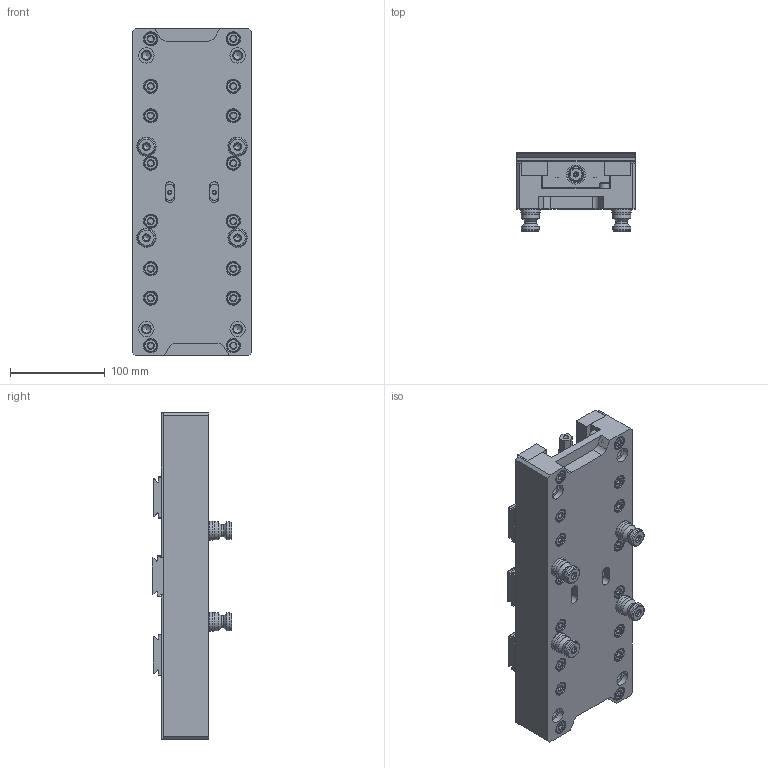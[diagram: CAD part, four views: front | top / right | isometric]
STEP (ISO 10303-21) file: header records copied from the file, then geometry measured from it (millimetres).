
FILE_DESCRIPTION (( 'STEP AP214' ), '1' );
FILE_NAME ('VA513_SPEC.DWG_WEBSITE.step', '2025-08-11T11:52:16', ( '' ), ( '' ), 'SwSTEP 2.0', 'SolidWorks 2025', '' );
FILE_SCHEMA (( 'AUTOMOTIVE_DESIGN' ));
Length unit declared in the file: inch
Products named in the file (21): VA513_SPEC.DWG_WEBSITE; M8X35MM.SHCS_513_SPEC.DWG_WEBSITE_M8X35MM.SHCS; M8X025.SHCS_513_SPEC.DWG_WEBSITE_M8X025.SHCS; VA56-10_513_SPEC.DWG_WEBSITE_VA56-10; M5X20MM.SHCS_513_SPEC.DWG_WEBSITE_M5X20MM.SHCS; PS20F_513_SPEC.DWG_WEBSITE; VA56-2R_513_SPEC.DWG_WEBSITE_VA56-2R; M12X35MM.LHSCS.10.9.SPEC.DWG_WEBSITE_M12X35MM.LHSCS; VA56-8_513_SPEC.DWG_WEBSITE_VA56-8; M6X6MM.SHCS_513_SPEC.DWG_WEBSITE_M6X6MM.SHCS; VA56-6_513_SPEC.DWG_WEBSITE_VA56-6; M10X25.FPSS_513_SPEC.DWG_WEBSITE_91390A162; VA513-1_513_SPEC.DWG_WEBSITE_VA513-1; VA56-3B_513_SPEC.DWG_WEBSITE_VA56-3B; VA56-9_513_SPEC.DWG_WEBSITE_VA56-9; M6X10.DP_513_SPEC.DWG_WEBSITE_M6X10.DP; VA56-2L_513_SPEC.DWG_WEBSITE_VA56-2L; PS20F-1_513_SPEC.DWG_WEBSITE_HARD TURN; VA56-3T_513_SPEC.DWG_WEBSITE_VA56-3T; VA513-5_513_SPEC.DWG_WEBSITE_VA513-5; VA513-4_513_SPEC.DWG_WEBSITE_VA513-4
Assembly tree (51 placements, depth 3):
  VA513_SPEC.DWG_WEBSITE
    M12X35MM.LHSCS.10.9.SPEC.DWG_WEBSITE_M12X35MM.LHSCS  x2
    M6X10.DP_513_SPEC.DWG_WEBSITE_M6X10.DP
    M8X35MM.SHCS_513_SPEC.DWG_WEBSITE_M8X35MM.SHCS  x16
    M8X025.SHCS_513_SPEC.DWG_WEBSITE_M8X025.SHCS  x4
    M6X6MM.SHCS_513_SPEC.DWG_WEBSITE_M6X6MM.SHCS  x2
    M5X20MM.SHCS_513_SPEC.DWG_WEBSITE_M5X20MM.SHCS  x4
    PS20F_513_SPEC.DWG_WEBSITE  x4
      PS20F-1_513_SPEC.DWG_WEBSITE_HARD TURN
      M10X25.FPSS_513_SPEC.DWG_WEBSITE_91390A162
    VA513-1_513_SPEC.DWG_WEBSITE_VA513-1
    VA56-2L_513_SPEC.DWG_WEBSITE_VA56-2L
    VA56-2R_513_SPEC.DWG_WEBSITE_VA56-2R
    VA56-3B_513_SPEC.DWG_WEBSITE_VA56-3B
    VA56-3T_513_SPEC.DWG_WEBSITE_VA56-3T
    VA513-4_513_SPEC.DWG_WEBSITE_VA513-4
    VA513-5_513_SPEC.DWG_WEBSITE_VA513-5
    VA56-6_513_SPEC.DWG_WEBSITE_VA56-6  x4
    VA56-8_513_SPEC.DWG_WEBSITE_VA56-8  x2
    VA56-9_513_SPEC.DWG_WEBSITE_VA56-9  x2
    VA56-10_513_SPEC.DWG_WEBSITE_VA56-10
Bounding box: 125.86 x 83.63 x 344.88 mm (x, y, z)
Volume: 1776034.7 mm3; surface area: 394246.5 mm2
Topology: 53 solids, 53 shells, 1492 faces, 3292 edges, 2036 vertices
Faces by surface type: plane 736, cylinder 335, cone 289, torus 118, bspline 12, sphere 2
Full cylindrical faces by diameter (mm): 3 x1, 4.2 x4, 5 x6, 5.5 x6, 6 x7, 6.02 x2, 6.05 x2, 6.147 x4, 6.35 x1, 6.8 x24, 8 x20, 8.5 x40, 9.5 x4, 10 x18, 10.2 x2, 11.5 x1, 12 x4, 12.497 x4, 12.5 x2, 12.6 x16, 13 x20, 13.3 x3, 14 x26, 14.58 x2, 16 x2, 16.02 x8, 16.05 x2, 16.297 x4, 18 x2, 19 x2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
Entity records: 20459 total; most frequent: CARTESIAN_POINT 3654, DIRECTION 3338, ORIENTED_EDGE 2688, EDGE_CURVE 1344, AXIS2_PLACEMENT_3D 1300, EDGE_LOOP 1132, VERTEX_POINT 996, FACE_OUTER_BOUND 877
